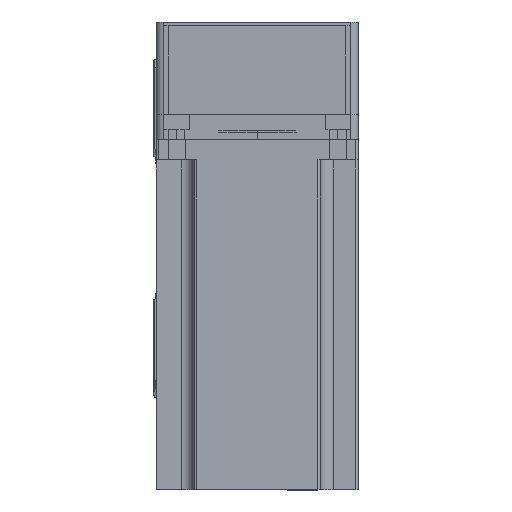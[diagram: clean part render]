
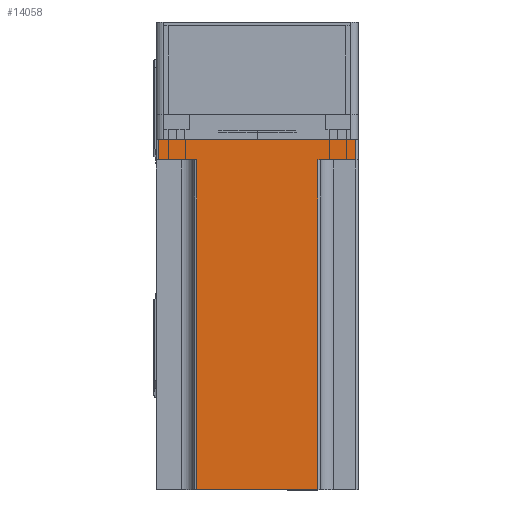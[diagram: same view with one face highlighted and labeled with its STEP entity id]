
A CAD part, top view. The second image highlights one B-rep face of the part: STEP entity #14058.
In plain terms, the highlighted planar face has unit normal (0, 0, 1) as drawn and (0, 1, 0) by its records, which use the part's own axes.
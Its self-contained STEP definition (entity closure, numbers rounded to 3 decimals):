
#333 = ORIENTED_EDGE ( 'NONE', *, *, #12302, .T. ) ;
#1446 = LINE ( 'NONE', #42778, #13922 ) ;
#1990 = EDGE_CURVE ( 'NONE', #29122, #38591, #38540, .T. ) ;
#3215 = ORIENTED_EDGE ( 'NONE', *, *, #37312, .F. ) ;
#3762 = VERTEX_POINT ( 'NONE', #47410 ) ;
#4328 = DIRECTION ( 'NONE',  ( 0., 0., -1. ) ) ;
#6351 = VECTOR ( 'NONE', #38242, 1000. ) ;
#6560 = CARTESIAN_POINT ( 'NONE',  ( -39., 40., 138.3 ) ) ;
#7926 = CARTESIAN_POINT ( 'NONE',  ( 25., 40., 8. ) ) ;
#8430 = VECTOR ( 'NONE', #25314, 1000. ) ;
#8965 = VECTOR ( 'NONE', #13838, 1000. ) ;
#9080 = CARTESIAN_POINT ( 'NONE',  ( -25., 40., 8. ) ) ;
#9319 = ORIENTED_EDGE ( 'NONE', *, *, #26924, .T. ) ;
#9464 = DIRECTION ( 'NONE',  ( -1., 0., 0. ) ) ;
#10599 = VERTEX_POINT ( 'NONE', #54543 ) ;
#10752 = DIRECTION ( 'NONE',  ( 0., -1., 0. ) ) ;
#12240 = VERTEX_POINT ( 'NONE', #17721 ) ;
#12302 = EDGE_CURVE ( 'NONE', #57259, #39700, #22343, .T. ) ;
#13336 = ORIENTED_EDGE ( 'NONE', *, *, #19424, .T. ) ;
#13838 = DIRECTION ( 'NONE',  ( 1., 0., 0. ) ) ;
#13922 = VECTOR ( 'NONE', #42980, 1000. ) ;
#14058 = ADVANCED_FACE ( 'NONE', ( #58319 ), #20026, .F. ) ;
#14538 = EDGE_CURVE ( 'NONE', #57259, #57216, #32434, .T. ) ;
#14547 = LINE ( 'NONE', #7926, #27079 ) ;
#17721 = CARTESIAN_POINT ( 'NONE',  ( -24., 40., 8. ) ) ;
#18125 = CARTESIAN_POINT ( 'NONE',  ( 24., 40., 138.3 ) ) ;
#19424 = EDGE_CURVE ( 'NONE', #38591, #10599, #1446, .T. ) ;
#19895 = VECTOR ( 'NONE', #9464, 1000. ) ;
#20026 = PLANE ( 'NONE',  #31064 ) ;
#20740 = ORIENTED_EDGE ( 'NONE', *, *, #51683, .T. ) ;
#20985 = LINE ( 'NONE', #6560, #8430 ) ;
#22343 = LINE ( 'NONE', #18125, #58484 ) ;
#22770 = ORIENTED_EDGE ( 'NONE', *, *, #14538, .F. ) ;
#23462 = CARTESIAN_POINT ( 'NONE',  ( 40., 40., 138.3 ) ) ;
#25314 = DIRECTION ( 'NONE',  ( 0., 0., 1. ) ) ;
#26896 = DIRECTION ( 'NONE',  ( -1., 0., 0. ) ) ;
#26924 = EDGE_CURVE ( 'NONE', #10599, #3762, #20985, .T. ) ;
#27079 = VECTOR ( 'NONE', #26896, 1000. ) ;
#27487 = CARTESIAN_POINT ( 'NONE',  ( 24., 40., 8. ) ) ;
#29122 = VERTEX_POINT ( 'NONE', #56923 ) ;
#31064 = AXIS2_PLACEMENT_3D ( 'NONE', #39018, #10752, #43700 ) ;
#32434 = LINE ( 'NONE', #23462, #19895 ) ;
#32926 = CARTESIAN_POINT ( 'NONE',  ( 24., 40., 138.3 ) ) ;
#33591 = EDGE_CURVE ( 'NONE', #3762, #12240, #35525, .T. ) ;
#35525 = LINE ( 'NONE', #9080, #8965 ) ;
#37050 = VECTOR ( 'NONE', #40163, 1000. ) ;
#37312 = EDGE_CURVE ( 'NONE', #29122, #39700, #14547, .T. ) ;
#38242 = DIRECTION ( 'NONE',  ( 0., 0., 1. ) ) ;
#38540 = LINE ( 'NONE', #44657, #37050 ) ;
#38591 = VERTEX_POINT ( 'NONE', #47950 ) ;
#39018 = CARTESIAN_POINT ( 'NONE',  ( 40., 40., 138.3 ) ) ;
#39700 = VERTEX_POINT ( 'NONE', #27487 ) ;
#40163 = DIRECTION ( 'NONE',  ( 0., 0., -1. ) ) ;
#41788 = ORIENTED_EDGE ( 'NONE', *, *, #1990, .T. ) ;
#41964 = CARTESIAN_POINT ( 'NONE',  ( -24., 40., 138.3 ) ) ;
#42778 = CARTESIAN_POINT ( 'NONE',  ( 40., 40., 0. ) ) ;
#42980 = DIRECTION ( 'NONE',  ( -1., 0., 0. ) ) ;
#43700 = DIRECTION ( 'NONE',  ( 1., 0., 0. ) ) ;
#44657 = CARTESIAN_POINT ( 'NONE',  ( 39., 40., 138.3 ) ) ;
#47410 = CARTESIAN_POINT ( 'NONE',  ( -39., 40., 8. ) ) ;
#47525 = EDGE_LOOP ( 'NONE', ( #51373, #20740, #22770, #333, #3215, #41788, #13336, #9319 ) ) ;
#47663 = CARTESIAN_POINT ( 'NONE',  ( -24., 40., 138.3 ) ) ;
#47950 = CARTESIAN_POINT ( 'NONE',  ( 39., 40., 0. ) ) ;
#51373 = ORIENTED_EDGE ( 'NONE', *, *, #33591, .T. ) ;
#51683 = EDGE_CURVE ( 'NONE', #12240, #57216, #56501, .T. ) ;
#54543 = CARTESIAN_POINT ( 'NONE',  ( -39., 40., 0. ) ) ;
#56501 = LINE ( 'NONE', #47663, #6351 ) ;
#56923 = CARTESIAN_POINT ( 'NONE',  ( 39., 40., 8. ) ) ;
#57216 = VERTEX_POINT ( 'NONE', #41964 ) ;
#57259 = VERTEX_POINT ( 'NONE', #32926 ) ;
#58319 = FACE_OUTER_BOUND ( 'NONE', #47525, .T. ) ;
#58484 = VECTOR ( 'NONE', #4328, 1000. ) ;
